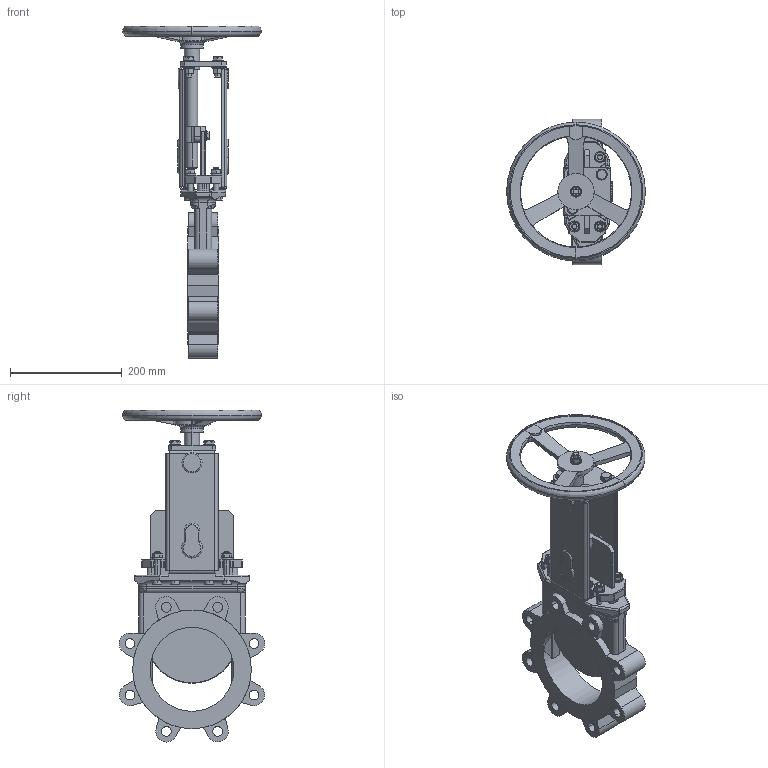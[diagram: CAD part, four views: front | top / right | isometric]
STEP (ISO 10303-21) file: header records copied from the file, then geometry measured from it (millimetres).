
FILE_DESCRIPTION(('STEP AP203'),'1');
FILE_NAME('G:/KONSTRUK/3-d block för CD/WB VALVE/HAND WHEEL/150/WB14-DN150-PN10-HW.stp','2013-03-06T07:46:11',(' '),(' '),'Spatial InterOp 3D',' ',' ');
FILE_SCHEMA(('CONFIG_CONTROL_DESIGN'));
Length unit declared in the file: millimetre
Products named in the file (7): 1; 2; 3; 4; 5; 6; 7
Bounding box: 248 x 259.75 x 593.37 mm (x, y, z)
Volume: 2907135.5 mm3; surface area: 538148 mm2
Topology: 7 solids, 15 shells, 1239 faces, 2943 edges, 1822 vertices
Faces by surface type: plane 508, cylinder 374, cone 259, torus 56, bspline 26, sphere 16
Entity records: 46901 total; most frequent: CARTESIAN_POINT 18023, DIRECTION 6095, ORIENTED_EDGE 5854, EDGE_CURVE 2927, AXIS2_PLACEMENT_3D 2406, VERTEX_POINT 1822, EDGE_LOOP 1379, LINE 1283
